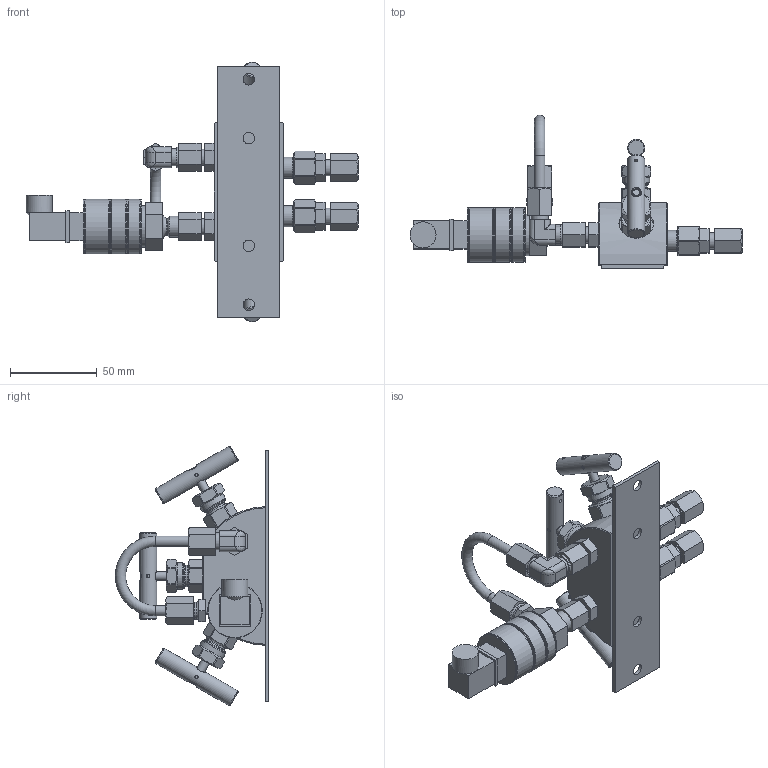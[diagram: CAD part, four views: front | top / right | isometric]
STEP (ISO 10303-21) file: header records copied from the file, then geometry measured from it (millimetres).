
FILE_DESCRIPTION(('STEP AP214'), '1');
FILE_NAME('UzelPPD', '2014-12-05T09:05:40', (''), (''), 'ASCON STEP Converter 1.3', 'ASCON Math Kernel', '');
FILE_SCHEMA(('AUTOMOTIVE_DESIGN { 1 0 10303 214 3 1 1}'));
Length unit declared in the file: millimetre
Products named in the file (1): 1
Bounding box: 191.5 x 88.46 x 149.72 mm (x, y, z)
Volume: 248626.2 mm3; surface area: 90402.2 mm2
Topology: 35 solids, 35 shells, 767 faces, 1703 edges, 1059 vertices
Faces by surface type: plane 320, cylinder 235, cone 180, torus 21, bspline 11
Full cylindrical faces by diameter (mm): 1.95 x3, 2 x12, 2.5 x4, 2.791 x2, 3.2 x9, 3.3 x4, 3.45 x3, 4 x5, 5 x11, 5.5 x3, 6 x11, 6.2 x4, 6.6 x4, 7 x5, 8 x3, 8.77 x2, 9 x2, 9.4 x4, 9.8 x6, 10 x8, 10.376 x4, 10.4 x2, 10.8 x2, 11.6 x3, 11.8 x2, 12 x10, 12.5 x3, 12.917 x3, 13 x3, 14 x6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
Entity records: 30327 total; most frequent: CARTESIAN_POINT 13041, DIRECTION 3561, ORIENTED_EDGE 3392, EDGE_CURVE 1696, AXIS2_PLACEMENT_3D 1380, VERTEX_POINT 1059, EDGE_LOOP 905, LINE 801
